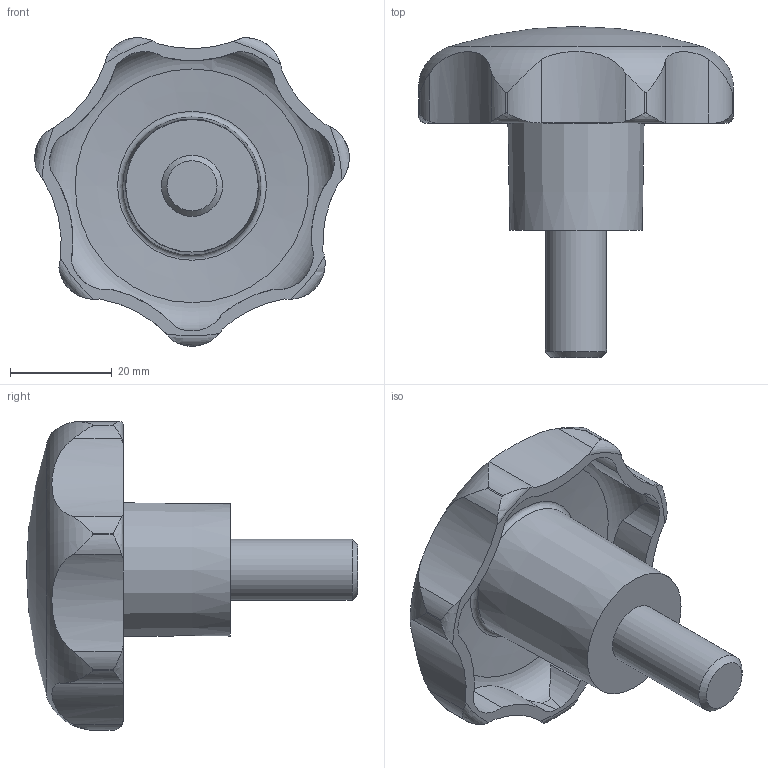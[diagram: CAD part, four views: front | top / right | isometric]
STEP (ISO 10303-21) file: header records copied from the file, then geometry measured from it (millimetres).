
FILE_DESCRIPTION( ( 'STEP AP203' ), '1' );
FILE_NAME( 'C:/Temp/Ganter_Step_05_03_2020/data/2_2/gn_6336_4/gn_6336_4_st/Star knob GN 6336.4-ST-63-M12-25.stp', '2020-03-05T12:07:44', ( 'License CC BY-ND 4.0' ), ( 'CADENAS' ), ' ', 'PARTsolutions', ' ' );
FILE_SCHEMA( ( 'CONFIG_CONTROL_DESIGN' ) );
Length unit declared in the file: millimetre
Products named in the file (1): _Star knob GN 6336.4-ST-63-M12-25
Bounding box: 61.76 x 65 x 60.57 mm (x, y, z)
Volume: 41956.2 mm3; surface area: 12636.4 mm2
Topology: 1 solids, 1 shells, 74 faces, 208 edges, 137 vertices
Faces by surface type: cylinder 50, torus 10, cone 10, plane 3, sphere 1
Full cylindrical faces by diameter (mm): 12 x1
Entity records: 3320 total; most frequent: CARTESIAN_POINT 1487, ORIENTED_EDGE 394, DIRECTION 350, EDGE_CURVE 197, AXIS2_PLACEMENT_3D 154, VERTEX_POINT 135, EDGE_LOOP 83, CIRCLE 79
